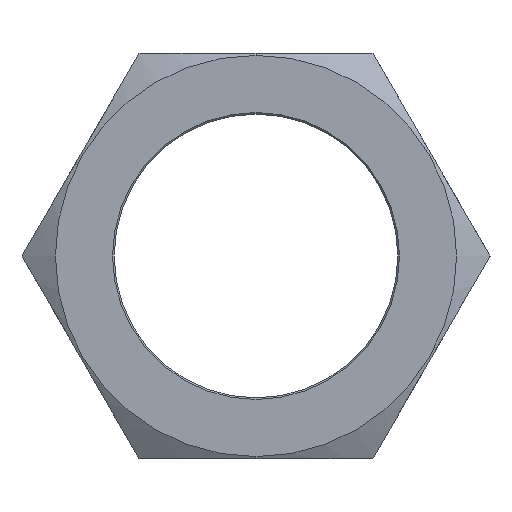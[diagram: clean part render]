
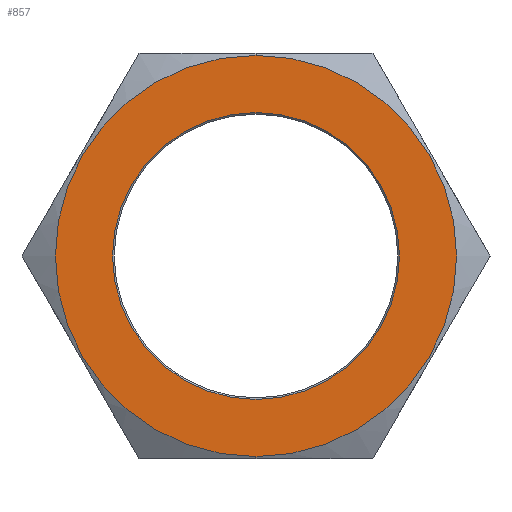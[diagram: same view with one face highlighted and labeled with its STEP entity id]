
A CAD part, left-side view. The second image highlights one B-rep face of the part: STEP entity #857.
In plain terms, the highlighted planar face has unit normal (-1, 0, 0) as drawn and (0, 0, 1) by its records, which use the part's own axes.
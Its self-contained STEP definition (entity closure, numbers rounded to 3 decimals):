
#141=CARTESIAN_POINT('',(24.75,0.0,12.25));
#142=VERTEX_POINT('',#141);
#151=CARTESIAN_POINT('',(-24.75,0.,12.25));
#152=VERTEX_POINT('',#151);
#153=CARTESIAN_POINT('',(0.,0.0,12.25));
#154=DIRECTION('',(0.0,0.0,1.0));
#155=DIRECTION('',(1.0,0.0,0.0));
#156=AXIS2_PLACEMENT_3D('',#153,#154,#155);
#157=CIRCLE('',#156,24.75);
#158=EDGE_CURVE('',#152,#142,#157,.T.);
#471=CARTESIAN_POINT('',(0.,17.7,12.25));
#472=VERTEX_POINT('',#471);
#480=CARTESIAN_POINT('',(0.,-17.7,12.25));
#481=VERTEX_POINT('',#480);
#488=CARTESIAN_POINT('',(0.,0.,12.25));
#489=DIRECTION('',(0.0,0.0,-1.0));
#490=DIRECTION('',(0.0,1.0,0.0));
#491=AXIS2_PLACEMENT_3D('',#488,#489,#490);
#492=CIRCLE('',#491,17.7);
#493=EDGE_CURVE('',#472,#481,#492,.T.);
#504=CARTESIAN_POINT('',(0.,0.,12.25));
#505=DIRECTION('',(0.0,0.0,-1.0));
#506=DIRECTION('',(0.0,1.0,0.0));
#507=AXIS2_PLACEMENT_3D('',#504,#505,#506);
#508=CIRCLE('',#507,17.7);
#509=EDGE_CURVE('',#481,#472,#508,.T.);
#728=CARTESIAN_POINT('',(0.,0.0,12.25));
#729=DIRECTION('',(0.0,0.0,1.0));
#730=DIRECTION('',(1.0,0.0,0.0));
#731=AXIS2_PLACEMENT_3D('',#728,#729,#730);
#732=CIRCLE('',#731,24.75);
#733=EDGE_CURVE('',#142,#152,#732,.T.);
#844=CARTESIAN_POINT('',(0.,0.,12.25));
#845=DIRECTION('',(0.0,0.0,1.0));
#846=DIRECTION('',(1.0,0.0,0.0));
#847=AXIS2_PLACEMENT_3D('',#844,#845,#846);
#848=PLANE('',#847);
#849=ORIENTED_EDGE('',*,*,#733,.T.);
#850=ORIENTED_EDGE('',*,*,#158,.T.);
#851=EDGE_LOOP('',(#849,#850));
#852=FACE_OUTER_BOUND('',#851,.T.);
#853=ORIENTED_EDGE('',*,*,#493,.T.);
#854=ORIENTED_EDGE('',*,*,#509,.T.);
#855=EDGE_LOOP('',(#853,#854));
#856=FACE_BOUND('',#855,.T.);
#857=ADVANCED_FACE('',(#852,#856),#848,.T.);
